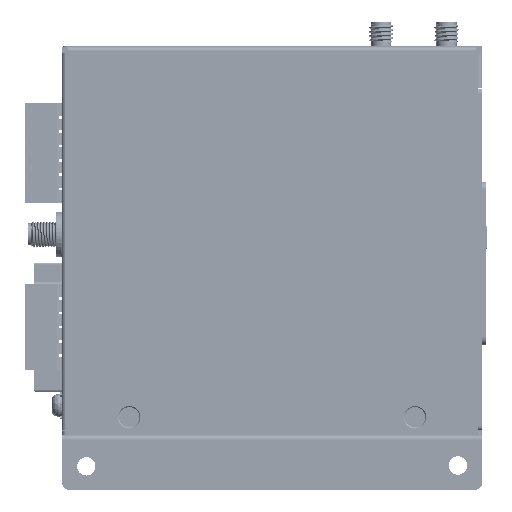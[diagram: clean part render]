
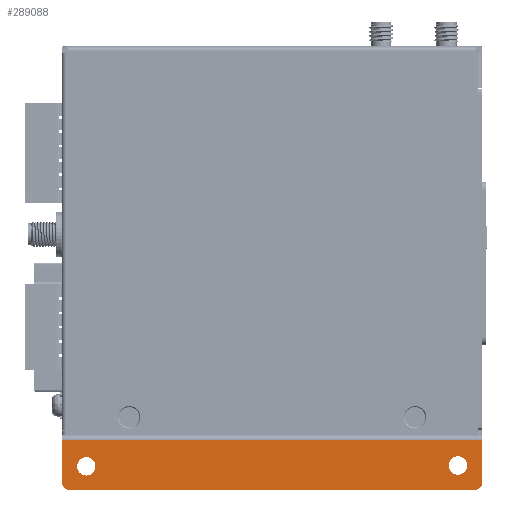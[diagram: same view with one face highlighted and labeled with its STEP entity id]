
A CAD part, left-side view. The second image highlights one B-rep face of the part: STEP entity #289088.
In plain terms, the highlighted planar face has unit normal (-1, 0, 0) as drawn and (0, -1, 0) by its records, which use the part's own axes.
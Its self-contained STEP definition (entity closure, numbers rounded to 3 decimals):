
#6614 = ORIENTED_EDGE ( 'NONE', *, *, #472524, .F. ) ;
#7688 = EDGE_CURVE ( 'NONE', #190267, #186341, #171215, .T. ) ;
#15548 = VECTOR ( 'NONE', #307167, 1000. ) ;
#26376 = CIRCLE ( 'NONE', #60579, 2. ) ;
#34862 = ORIENTED_EDGE ( 'NONE', *, *, #234991, .T. ) ;
#38559 = CARTESIAN_POINT ( 'NONE',  ( 1.2, 0., -51.5 ) ) ;
#50439 = FACE_BOUND ( 'NONE', #229419, .T. ) ;
#55319 = VERTEX_POINT ( 'NONE', #468647 ) ;
#60579 = AXIS2_PLACEMENT_3D ( 'NONE', #257920, #263148, #132869 ) ;
#60855 = CARTESIAN_POINT ( 'NONE',  ( 13.5, 0., -51.5 ) ) ;
#62359 = LINE ( 'NONE', #512986, #148240 ) ;
#75600 = EDGE_CURVE ( 'NONE', #374278, #387184, #26376, .T. ) ;
#89853 = CIRCLE ( 'NONE', #149705, 2.25 ) ;
#103312 = AXIS2_PLACEMENT_3D ( 'NONE', #353114, #315556, #478205 ) ;
#103487 = DIRECTION ( 'NONE',  ( 0., -1., 0. ) ) ;
#103552 = ORIENTED_EDGE ( 'NONE', *, *, #245655, .F. ) ;
#105684 = CARTESIAN_POINT ( 'NONE',  ( 13.5, 0., -51.5 ) ) ;
#106273 = DIRECTION ( 'NONE',  ( 0., -1., 0. ) ) ;
#120280 = AXIS2_PLACEMENT_3D ( 'NONE', #468680, #103487, #298216 ) ;
#122220 = DIRECTION ( 'NONE',  ( 0., -1., 0. ) ) ;
#132869 = DIRECTION ( 'NONE',  ( -1., 0., 0. ) ) ;
#134345 = AXIS2_PLACEMENT_3D ( 'NONE', #60855, #180968, #423462 ) ;
#148240 = VECTOR ( 'NONE', #224963, 1000. ) ;
#149705 = AXIS2_PLACEMENT_3D ( 'NONE', #215223, #122220, #457893 ) ;
#165500 = CARTESIAN_POINT ( 'NONE',  ( 11.5, 0., -51.5 ) ) ;
#171215 = CIRCLE ( 'NONE', #486346, 2.25 ) ;
#171798 = CARTESIAN_POINT ( 'NONE',  ( 13.5, 0., -49.5 ) ) ;
#180968 = DIRECTION ( 'NONE',  ( 0., 1., 0. ) ) ;
#186341 = VERTEX_POINT ( 'NONE', #287825 ) ;
#190267 = VERTEX_POINT ( 'NONE', #523771 ) ;
#190992 = LINE ( 'NONE', #105684, #421130 ) ;
#194290 = EDGE_CURVE ( 'NONE', #357695, #389902, #320175, .T. ) ;
#194464 = ORIENTED_EDGE ( 'NONE', *, *, #75600, .T. ) ;
#204610 = DIRECTION ( 'NONE',  ( 1., 0., 0. ) ) ;
#213179 = EDGE_CURVE ( 'NONE', #374278, #457441, #347311, .T. ) ;
#215223 = CARTESIAN_POINT ( 'NONE',  ( 7.5, 0., 45.5 ) ) ;
#224963 = DIRECTION ( 'NONE',  ( 0., 0., -1. ) ) ;
#229419 = EDGE_LOOP ( 'NONE', ( #256854, #6614 ) ) ;
#230265 = ORIENTED_EDGE ( 'NONE', *, *, #313194, .T. ) ;
#234991 = EDGE_CURVE ( 'NONE', #55319, #354047, #367494, .T. ) ;
#240815 = CARTESIAN_POINT ( 'NONE',  ( 13.5, 0., 51.5 ) ) ;
#245655 = EDGE_CURVE ( 'NONE', #186341, #190267, #89853, .T. ) ;
#247626 = DIRECTION ( 'NONE',  ( 0., -1., 0. ) ) ;
#248224 = EDGE_CURVE ( 'NONE', #442430, #457441, #62359, .T. ) ;
#256376 = CIRCLE ( 'NONE', #120280, 2.25 ) ;
#256854 = ORIENTED_EDGE ( 'NONE', *, *, #194290, .F. ) ;
#257920 = CARTESIAN_POINT ( 'NONE',  ( 11.5, 0., -49.5 ) ) ;
#263148 = DIRECTION ( 'NONE',  ( 0., -1., 0. ) ) ;
#283618 = LINE ( 'NONE', #240815, #489185 ) ;
#287825 = CARTESIAN_POINT ( 'NONE',  ( 9.75, 0., 45.5 ) ) ;
#289088 = ADVANCED_FACE ( 'NONE', ( #420842, #50439, #506260 ), #426051, .F. ) ;
#298216 = DIRECTION ( 'NONE',  ( 1., 0., 0. ) ) ;
#307167 = DIRECTION ( 'NONE',  ( -1., 0., 0. ) ) ;
#313194 = EDGE_CURVE ( 'NONE', #387184, #55319, #190992, .T. ) ;
#313517 = DIRECTION ( 'NONE',  ( 0., 0., 1. ) ) ;
#315556 = DIRECTION ( 'NONE',  ( 0., -1., 0. ) ) ;
#320175 = CIRCLE ( 'NONE', #388450, 2.25 ) ;
#347311 = LINE ( 'NONE', #349891, #15548 ) ;
#349891 = CARTESIAN_POINT ( 'NONE',  ( 13.5, 0., -51.5 ) ) ;
#353114 = CARTESIAN_POINT ( 'NONE',  ( 11.5, 0., 49.5 ) ) ;
#354047 = VERTEX_POINT ( 'NONE', #411979 ) ;
#357695 = VERTEX_POINT ( 'NONE', #510022 ) ;
#366226 = DIRECTION ( 'NONE',  ( -1., 0., 0. ) ) ;
#367494 = CIRCLE ( 'NONE', #103312, 2. ) ;
#367800 = CARTESIAN_POINT ( 'NONE',  ( 7.5, 0., 45.5 ) ) ;
#374278 = VERTEX_POINT ( 'NONE', #165500 ) ;
#387184 = VERTEX_POINT ( 'NONE', #171798 ) ;
#388450 = AXIS2_PLACEMENT_3D ( 'NONE', #471477, #106273, #204610 ) ;
#389902 = VERTEX_POINT ( 'NONE', #438124 ) ;
#394217 = ORIENTED_EDGE ( 'NONE', *, *, #248224, .T. ) ;
#410341 = DIRECTION ( 'NONE',  ( 1., 0., 0. ) ) ;
#411979 = CARTESIAN_POINT ( 'NONE',  ( 11.5, 0., 51.5 ) ) ;
#420842 = FACE_BOUND ( 'NONE', #506496, .T. ) ;
#421130 = VECTOR ( 'NONE', #313517, 1000. ) ;
#423462 = DIRECTION ( 'NONE',  ( -1., 0., 0. ) ) ;
#426051 = PLANE ( 'NONE',  #134345 ) ;
#438124 = CARTESIAN_POINT ( 'NONE',  ( 5.465, 0., -45.5 ) ) ;
#442430 = VERTEX_POINT ( 'NONE', #475324 ) ;
#452446 = EDGE_LOOP ( 'NONE', ( #512050, #194464, #230265, #34862, #507698, #394217 ) ) ;
#457441 = VERTEX_POINT ( 'NONE', #38559 ) ;
#457893 = DIRECTION ( 'NONE',  ( 1., 0., 0. ) ) ;
#461709 = ORIENTED_EDGE ( 'NONE', *, *, #7688, .F. ) ;
#468647 = CARTESIAN_POINT ( 'NONE',  ( 13.5, 0., 49.5 ) ) ;
#468680 = CARTESIAN_POINT ( 'NONE',  ( 7.715, 0., -45.5 ) ) ;
#471477 = CARTESIAN_POINT ( 'NONE',  ( 7.715, 0., -45.5 ) ) ;
#472524 = EDGE_CURVE ( 'NONE', #389902, #357695, #256376, .T. ) ;
#475324 = CARTESIAN_POINT ( 'NONE',  ( 1.2, 0., 51.5 ) ) ;
#478205 = DIRECTION ( 'NONE',  ( -1., 0., 0. ) ) ;
#486346 = AXIS2_PLACEMENT_3D ( 'NONE', #367800, #247626, #410341 ) ;
#489185 = VECTOR ( 'NONE', #366226, 1000. ) ;
#501616 = EDGE_CURVE ( 'NONE', #354047, #442430, #283618, .T. ) ;
#506260 = FACE_OUTER_BOUND ( 'NONE', #452446, .T. ) ;
#506496 = EDGE_LOOP ( 'NONE', ( #103552, #461709 ) ) ;
#507698 = ORIENTED_EDGE ( 'NONE', *, *, #501616, .T. ) ;
#510022 = CARTESIAN_POINT ( 'NONE',  ( 9.965, 0., -45.5 ) ) ;
#512050 = ORIENTED_EDGE ( 'NONE', *, *, #213179, .F. ) ;
#512986 = CARTESIAN_POINT ( 'NONE',  ( 1.2, 0., -51.5 ) ) ;
#523771 = CARTESIAN_POINT ( 'NONE',  ( 5.25, 0., 45.5 ) ) ;
